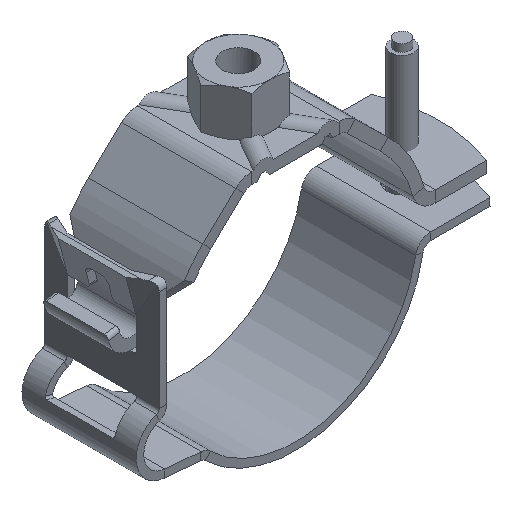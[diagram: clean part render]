
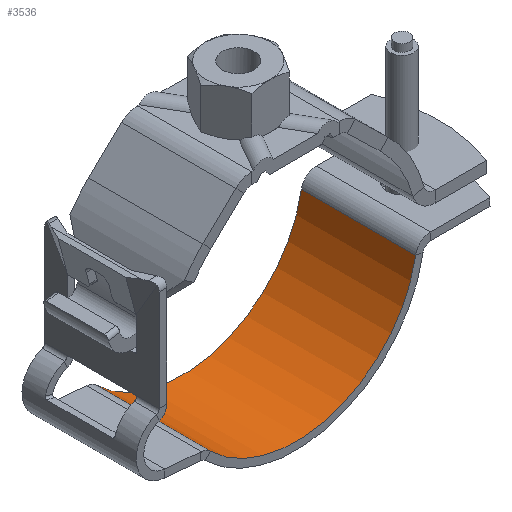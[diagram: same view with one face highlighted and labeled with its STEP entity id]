
A CAD part, isometric view. The second image highlights one B-rep face of the part: STEP entity #3536.
In plain terms, the highlighted cylindrical face has radius 32 mm (diameter 64 mm), a partial arc.
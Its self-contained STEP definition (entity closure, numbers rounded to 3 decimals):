
#166=CIRCLE('',#3854,32.);
#167=CIRCLE('',#3855,32.);
#267=CYLINDRICAL_SURFACE('',#3853,32.);
#380=FACE_OUTER_BOUND('',#598,.T.);
#598=EDGE_LOOP('',(#2506,#2507,#2508,#2509));
#875=LINE('',#5694,#1198);
#879=LINE('',#5706,#1202);
#1198=VECTOR('',#4388,30.);
#1202=VECTOR('',#4400,30.);
#1525=VERTEX_POINT('',#5692);
#1526=VERTEX_POINT('',#5693);
#1529=VERTEX_POINT('',#5704);
#1530=VERTEX_POINT('',#5705);
#1894=EDGE_CURVE('',#1525,#1526,#875,.T.);
#1900=EDGE_CURVE('',#1529,#1530,#879,.T.);
#1901=EDGE_CURVE('',#1526,#1530,#166,.T.);
#1902=EDGE_CURVE('',#1525,#1529,#167,.T.);
#2506=ORIENTED_EDGE('',*,*,#1900,.T.);
#2507=ORIENTED_EDGE('',*,*,#1901,.F.);
#2508=ORIENTED_EDGE('',*,*,#1894,.F.);
#2509=ORIENTED_EDGE('',*,*,#1902,.T.);
#3536=ADVANCED_FACE('',(#380),#267,.F.);
#3853=AXIS2_PLACEMENT_3D('',#5703,#4398,#4399);
#3854=AXIS2_PLACEMENT_3D('',#5707,#4401,#4402);
#3855=AXIS2_PLACEMENT_3D('',#5708,#4403,#4404);
#4388=DIRECTION('',(-1.,0.,0.));
#4398=DIRECTION('center_axis',(1.,0.,0.));
#4399=DIRECTION('ref_axis',(0.,1.,0.));
#4400=DIRECTION('',(-1.,0.,0.));
#4401=DIRECTION('center_axis',(1.,0.,0.));
#4402=DIRECTION('ref_axis',(0.,-0.697,-0.717));
#4403=DIRECTION('center_axis',(1.,0.,0.));
#4404=DIRECTION('ref_axis',(0.,-0.697,-0.717));
#5692=CARTESIAN_POINT('',(30.,-22.319,-20.932));
#5693=CARTESIAN_POINT('',(0.,-22.319,-20.932));
#5694=CARTESIAN_POINT('',(30.,-22.319,-20.932));
#5703=CARTESIAN_POINT('Origin',(15.511,0.,2.));
#5704=CARTESIAN_POINT('',(30.,31.552,-3.333));
#5705=CARTESIAN_POINT('',(0.,31.552,-3.333));
#5706=CARTESIAN_POINT('',(30.,31.552,-3.333));
#5707=CARTESIAN_POINT('Origin',(0.,0.,2.));
#5708=CARTESIAN_POINT('Origin',(30.,0.,2.));
